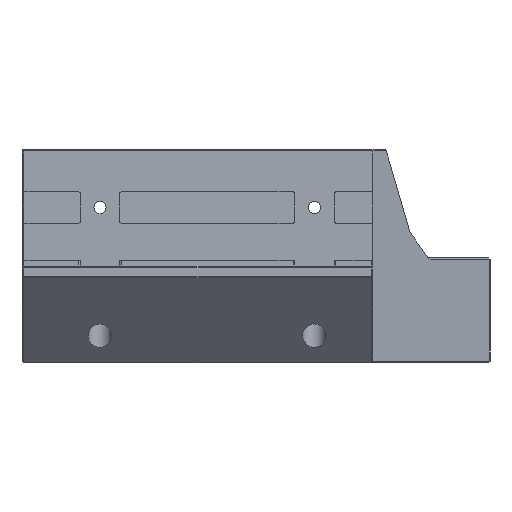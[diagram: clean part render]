
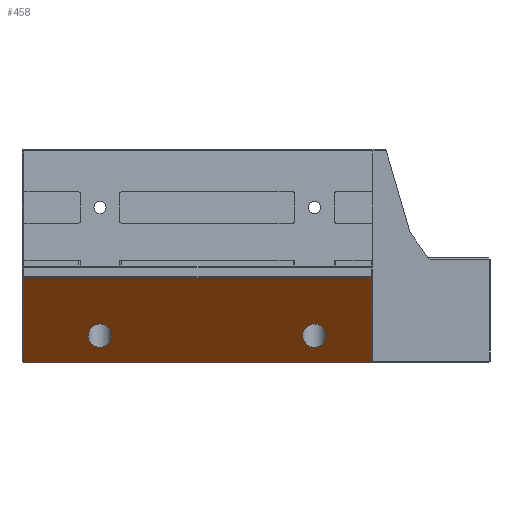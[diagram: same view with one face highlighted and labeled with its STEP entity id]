
A CAD part, front view. The second image highlights one B-rep face of the part: STEP entity #458.
In plain terms, the highlighted planar face has unit normal (0, -0.707, -0.707).
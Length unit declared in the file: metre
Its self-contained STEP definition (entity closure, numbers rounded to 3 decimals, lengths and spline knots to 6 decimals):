
#458 = ADVANCED_FACE( '', ( #1084, #1085, #1086 ), #1087, .T. );
#1084 = FACE_BOUND( '', #1907, .T. );
#1085 = FACE_BOUND( '', #1908, .T. );
#1086 = FACE_OUTER_BOUND( '', #1909, .T. );
#1087 = PLANE( '', #1910 );
#1907 = EDGE_LOOP( '', ( #3200 ) );
#1908 = EDGE_LOOP( '', ( #3201 ) );
#1909 = EDGE_LOOP( '', ( #3202, #3203, #3204, #3205 ) );
#1910 = AXIS2_PLACEMENT_3D( '', #3206, #3207, #3208 );
#3200 = ORIENTED_EDGE( '', *, *, #5039, .F. );
#3201 = ORIENTED_EDGE( '', *, *, #4976, .F. );
#3202 = ORIENTED_EDGE( '', *, *, #4874, .T. );
#3203 = ORIENTED_EDGE( '', *, *, #5015, .T. );
#3204 = ORIENTED_EDGE( '', *, *, #4880, .T. );
#3205 = ORIENTED_EDGE( '', *, *, #4784, .T. );
#3206 = CARTESIAN_POINT( '', ( -0.034119, -0.089709, 0.01 ) );
#3207 = DIRECTION( '', ( 0., -0.707, -0.707 ) );
#3208 = DIRECTION( '', ( -1., 0., 0. ) );
#4784 = EDGE_CURVE( '', #5751, #5749, #5752, .T. );
#4874 = EDGE_CURVE( '', #5749, #5893, #5895, .T. );
#4880 = EDGE_CURVE( '', #5898, #5751, #5903, .T. );
#4976 = EDGE_CURVE( '', #6046, #6046, #6047, .T. );
#5015 = EDGE_CURVE( '', #5893, #5898, #6109, .T. );
#5039 = EDGE_CURVE( '', #6143, #6143, #6144, .T. );
#5749 = VERTEX_POINT( '', #7097 );
#5751 = VERTEX_POINT( '', #7100 );
#5752 = LINE( '', #7101, #7102 );
#5893 = VERTEX_POINT( '', #7318 );
#5895 = LINE( '', #7321, #7322 );
#5898 = VERTEX_POINT( '', #7326 );
#5903 = LINE( '', #7334, #7335 );
#6046 = VERTEX_POINT( '', #7558 );
#6047 = ELLIPSE( '', #7559, 0.004243, 0.003 );
#6109 = LINE( '', #7649, #7650 );
#6143 = VERTEX_POINT( '', #7698 );
#6144 = ELLIPSE( '', #7699, 0.004243, 0.003 );
#7097 = CARTESIAN_POINT( '', ( 0.035381, -0.067856, -0.011854 ) );
#7100 = CARTESIAN_POINT( '', ( -0.053619, -0.067856, -0.011854 ) );
#7101 = CARTESIAN_POINT( '', ( 0.035881, -0.067856, -0.011854 ) );
#7102 = VECTOR( '', #8652, 1. );
#7318 = CARTESIAN_POINT( '', ( 0.035381, -0.089563, 0.009854 ) );
#7321 = CARTESIAN_POINT( '', ( 0.035381, -0.089709, 0.01 ) );
#7322 = VECTOR( '', #8749, 1. );
#7326 = CARTESIAN_POINT( '', ( -0.053619, -0.089563, 0.009854 ) );
#7334 = CARTESIAN_POINT( '', ( -0.053619, -0.067709, -0.012 ) );
#7335 = VECTOR( '', #8754, 1. );
#7558 = CARTESIAN_POINT( '', ( 0.020881, -0.077709, -0.002 ) );
#7559 = AXIS2_PLACEMENT_3D( '', #8848, #8849, #8850 );
#7649 = CARTESIAN_POINT( '', ( -0.034119, -0.089563, 0.009854 ) );
#7650 = VECTOR( '', #8896, 1. );
#7698 = CARTESIAN_POINT( '', ( -0.034119, -0.077709, -0.002 ) );
#7699 = AXIS2_PLACEMENT_3D( '', #8917, #8918, #8919 );
#8652 = DIRECTION( '', ( 1., 0., 0. ) );
#8749 = DIRECTION( '', ( 0., -0.707, 0.707 ) );
#8754 = DIRECTION( '', ( 0., 0.707, -0.707 ) );
#8848 = CARTESIAN_POINT( '', ( 0.020881, -0.074709, -0.005 ) );
#8849 = DIRECTION( '', ( 0., -0.707, -0.707 ) );
#8850 = DIRECTION( '', ( 0., -0.707, 0.707 ) );
#8896 = DIRECTION( '', ( -1., 0., 0. ) );
#8917 = CARTESIAN_POINT( '', ( -0.034119, -0.074709, -0.005 ) );
#8918 = DIRECTION( '', ( 0., -0.707, -0.707 ) );
#8919 = DIRECTION( '', ( 0., -0.707, 0.707 ) );
